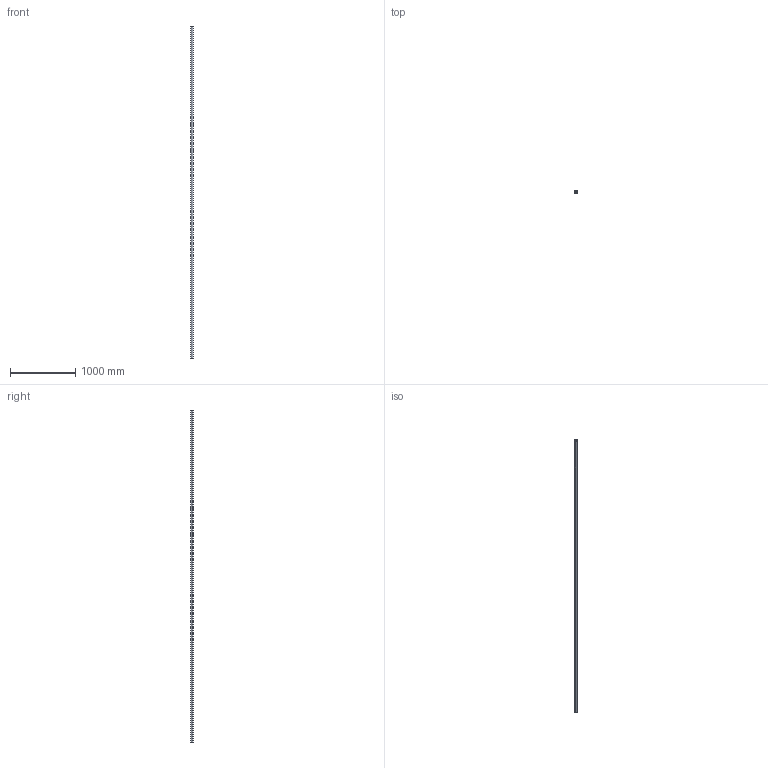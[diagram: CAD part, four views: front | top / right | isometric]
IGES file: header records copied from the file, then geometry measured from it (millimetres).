
Start section: SolidWorks IGES file using analytic representation for surfaces
Global section: file name: C:\Users\IanO\Desktop\L1771_v2\L1771.40_v2\L1771.40_v2_20230705_IGES\L1771.40-5100.igs; native system: SolidWorks 2019; preprocessor: SolidWorks 2019; author: IanO; date: 230705.162929; units: millimetre
Bounding box: 40 x 40 x 5100 mm (x, y, z)
Surface area: 1090786.1 mm2 (no closed solid volume)
Topology: 0 solids, 0 shells, 6 faces, 272 edges, 272 vertices
Faces by surface type: revolution 4, bspline 2
